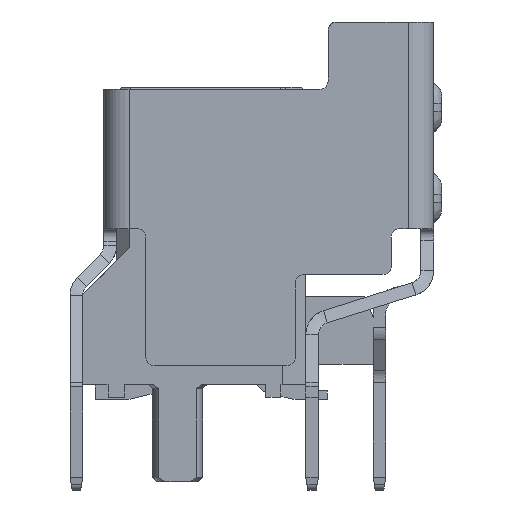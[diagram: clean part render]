
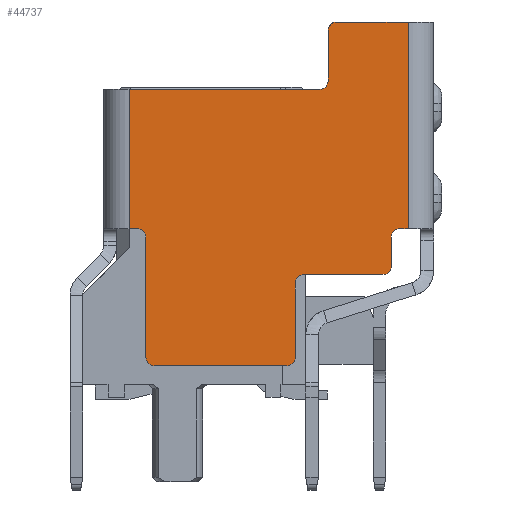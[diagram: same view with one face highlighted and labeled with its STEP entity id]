
A CAD part, left-side view. The second image highlights one B-rep face of the part: STEP entity #44737.
In plain terms, the highlighted planar face has unit normal (-1, 0, 0).
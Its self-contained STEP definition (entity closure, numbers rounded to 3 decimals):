
#9690=DIRECTION('',(0.,1.,0.));
#9691=VECTOR('',#9690,4.52);
#9692=CARTESIAN_POINT('',(-21.,-2.975,3.625));
#9693=LINE('',#9692,#9691);
#10051=DIRECTION('',(0.,0.,-1.));
#10052=VECTOR('',#10051,3.3);
#10053=CARTESIAN_POINT('',(-21.,1.545,3.625));
#10054=LINE('',#10053,#10052);
#10059=CARTESIAN_POINT('',(-21.,-2.975,3.825));
#10060=DIRECTION('',(-1.,0.,0.));
#10061=DIRECTION('',(0.,0.,-1.));
#10062=AXIS2_PLACEMENT_3D('',#10059,#10060,#10061);
#10064=CARTESIAN_POINT('',(-21.,-3.375,5.025));
#10065=DIRECTION('',(1.,0.,0.));
#10066=DIRECTION('',(0.,1.,0.));
#10067=AXIS2_PLACEMENT_3D('',#10064,#10065,#10066);
#10069=DIRECTION('',(0.,1.,0.));
#10070=VECTOR('',#10069,0.2);
#10071=CARTESIAN_POINT('',(-21.,-5.075,0.325));
#10072=LINE('',#10071,#10070);
#10073=CARTESIAN_POINT('',(-21.,-4.875,0.125));
#10074=DIRECTION('',(-1.,0.,0.));
#10075=DIRECTION('',(0.,0.,1.));
#10076=AXIS2_PLACEMENT_3D('',#10073,#10074,#10075);
#10078=DIRECTION('',(0.,0.,-1.));
#10079=VECTOR('',#10078,0.69);
#10080=CARTESIAN_POINT('',(-21.,-4.675,0.125));
#10081=LINE('',#10080,#10079);
#10082=CARTESIAN_POINT('',(-21.,-4.475,-0.565));
#10083=DIRECTION('',(1.,0.,0.));
#10084=DIRECTION('',(0.,-1.,0.));
#10085=AXIS2_PLACEMENT_3D('',#10082,#10083,#10084);
#10087=DIRECTION('',(0.,1.,0.));
#10088=VECTOR('',#10087,1.88);
#10089=CARTESIAN_POINT('',(-21.,-4.475,-0.765));
#10090=LINE('',#10089,#10088);
#10091=CARTESIAN_POINT('',(-21.,-2.595,-0.965));
#10092=DIRECTION('',(-1.,0.,0.));
#10093=DIRECTION('',(0.,0.,1.));
#10094=AXIS2_PLACEMENT_3D('',#10091,#10092,#10093);
#10096=DIRECTION('',(0.,0.,-1.));
#10097=VECTOR('',#10096,1.76);
#10098=CARTESIAN_POINT('',(-21.,-2.395,-0.965));
#10099=LINE('',#10098,#10097);
#10100=CARTESIAN_POINT('',(-21.,-2.195,-2.725));
#10101=DIRECTION('',(1.,0.,0.));
#10102=DIRECTION('',(0.,-1.,0.));
#10103=AXIS2_PLACEMENT_3D('',#10100,#10101,#10102);
#10105=DIRECTION('',(0.,1.,0.));
#10106=VECTOR('',#10105,3.14);
#10107=CARTESIAN_POINT('',(-21.,-2.195,-2.925));
#10108=LINE('',#10107,#10106);
#10109=CARTESIAN_POINT('',(-21.,0.945,-2.725));
#10110=DIRECTION('',(1.,0.,0.));
#10111=DIRECTION('',(0.,0.,-1.));
#10112=AXIS2_PLACEMENT_3D('',#10109,#10110,#10111);
#10114=CARTESIAN_POINT('',(-21.,1.345,0.125));
#10115=DIRECTION('',(-1.,0.,0.));
#10116=DIRECTION('',(0.,-1.,0.));
#10117=AXIS2_PLACEMENT_3D('',#10114,#10115,#10116);
#10119=DIRECTION('',(0.,1.,0.));
#10120=VECTOR('',#10119,0.2);
#10121=CARTESIAN_POINT('',(-21.,1.345,0.325));
#10122=LINE('',#10121,#10120);
#10211=DIRECTION('',(0.,0.,-1.));
#10212=VECTOR('',#10211,2.85);
#10213=CARTESIAN_POINT('',(-21.,1.145,0.125));
#10214=LINE('',#10213,#10212);
#10337=DIRECTION('',(0.,1.,0.));
#10338=VECTOR('',#10337,1.7);
#10339=CARTESIAN_POINT('',(-21.,-5.075,5.225));
#10340=LINE('',#10339,#10338);
#10712=DIRECTION('',(0.,0.,1.));
#10713=VECTOR('',#10712,4.9);
#10714=CARTESIAN_POINT('',(-21.,-5.075,0.325));
#10715=LINE('',#10714,#10713);
#10732=DIRECTION('',(0.,0.,-1.));
#10733=VECTOR('',#10732,1.2);
#10734=CARTESIAN_POINT('',(-21.,-3.175,5.025));
#10735=LINE('',#10734,#10733);
#28228=CARTESIAN_POINT('',(-21.,-2.975,3.625));
#28229=VERTEX_POINT('',#28228);
#28230=CARTESIAN_POINT('',(-21.,1.545,3.625));
#28231=VERTEX_POINT('',#28230);
#28248=CARTESIAN_POINT('',(-21.,1.545,0.325));
#28249=VERTEX_POINT('',#28248);
#28250=CARTESIAN_POINT('',(-21.,1.345,0.325));
#28251=VERTEX_POINT('',#28250);
#28364=CARTESIAN_POINT('',(-21.,-5.075,5.225));
#28365=VERTEX_POINT('',#28364);
#28366=CARTESIAN_POINT('',(-21.,-3.375,5.225));
#28367=VERTEX_POINT('',#28366);
#28379=CARTESIAN_POINT('',(-21.,-3.175,5.025));
#28380=VERTEX_POINT('',#28379);
#28383=CARTESIAN_POINT('',(-21.,-3.175,3.825));
#28384=VERTEX_POINT('',#28383);
#28385=CARTESIAN_POINT('',(-21.,-5.075,0.325));
#28386=VERTEX_POINT('',#28385);
#28387=CARTESIAN_POINT('',(-21.,-4.875,0.325));
#28388=VERTEX_POINT('',#28387);
#28389=CARTESIAN_POINT('',(-21.,-4.675,0.125));
#28390=VERTEX_POINT('',#28389);
#28391=CARTESIAN_POINT('',(-21.,-4.675,-0.565));
#28392=VERTEX_POINT('',#28391);
#28393=CARTESIAN_POINT('',(-21.,-4.475,-0.765));
#28394=VERTEX_POINT('',#28393);
#28395=CARTESIAN_POINT('',(-21.,-2.595,-0.765));
#28396=VERTEX_POINT('',#28395);
#28397=CARTESIAN_POINT('',(-21.,-2.395,-0.965));
#28398=VERTEX_POINT('',#28397);
#28399=CARTESIAN_POINT('',(-21.,-2.395,-2.725));
#28400=VERTEX_POINT('',#28399);
#28401=CARTESIAN_POINT('',(-21.,-2.195,-2.925));
#28402=VERTEX_POINT('',#28401);
#28403=CARTESIAN_POINT('',(-21.,0.945,-2.925));
#28404=VERTEX_POINT('',#28403);
#28405=CARTESIAN_POINT('',(-21.,1.145,-2.725));
#28406=VERTEX_POINT('',#28405);
#28407=CARTESIAN_POINT('',(-21.,1.145,0.125));
#28408=VERTEX_POINT('',#28407);
#44693=CARTESIAN_POINT('',(-21.,-1.765,1.15));
#44694=DIRECTION('',(1.,0.,0.));
#44695=DIRECTION('',(0.,1.,0.));
#44696=AXIS2_PLACEMENT_3D('',#44693,#44694,#44695);
#44697=PLANE('',#44696);
#44698=ORIENTED_EDGE('',*,*,#44393,.F.);
#44700=ORIENTED_EDGE('',*,*,#44699,.T.);
#44702=ORIENTED_EDGE('',*,*,#44701,.F.);
#44704=ORIENTED_EDGE('',*,*,#44703,.T.);
#44706=ORIENTED_EDGE('',*,*,#44705,.F.);
#44708=ORIENTED_EDGE('',*,*,#44707,.F.);
#44710=ORIENTED_EDGE('',*,*,#44709,.T.);
#44712=ORIENTED_EDGE('',*,*,#44711,.T.);
#44714=ORIENTED_EDGE('',*,*,#44713,.T.);
#44716=ORIENTED_EDGE('',*,*,#44715,.T.);
#44718=ORIENTED_EDGE('',*,*,#44717,.T.);
#44720=ORIENTED_EDGE('',*,*,#44719,.T.);
#44722=ORIENTED_EDGE('',*,*,#44721,.T.);
#44724=ORIENTED_EDGE('',*,*,#44723,.T.);
#44726=ORIENTED_EDGE('',*,*,#44725,.T.);
#44728=ORIENTED_EDGE('',*,*,#44727,.T.);
#44730=ORIENTED_EDGE('',*,*,#44729,.F.);
#44732=ORIENTED_EDGE('',*,*,#44731,.T.);
#44733=ORIENTED_EDGE('',*,*,#44357,.T.);
#44734=ORIENTED_EDGE('',*,*,#44686,.F.);
#44735=EDGE_LOOP('',(#44698,#44700,#44702,#44704,#44706,#44708,#44710,#44712,
#44714,#44716,#44718,#44720,#44722,#44724,#44726,#44728,#44730,#44732,#44733,
#44734));
#44736=FACE_OUTER_BOUND('',#44735,.F.);
#10063=CIRCLE('',#10062,0.2);
#10068=CIRCLE('',#10067,0.2);
#10077=CIRCLE('',#10076,0.2);
#10086=CIRCLE('',#10085,0.2);
#10095=CIRCLE('',#10094,0.2);
#10104=CIRCLE('',#10103,0.2);
#10113=CIRCLE('',#10112,0.2);
#10118=CIRCLE('',#10117,0.2);
#44357=EDGE_CURVE('',#28251,#28249,#10122,.T.);
#44393=EDGE_CURVE('',#28229,#28231,#9693,.T.);
#44686=EDGE_CURVE('',#28231,#28249,#10054,.T.);
#44699=EDGE_CURVE('',#28229,#28384,#10063,.T.);
#44701=EDGE_CURVE('',#28380,#28384,#10735,.T.);
#44703=EDGE_CURVE('',#28380,#28367,#10068,.T.);
#44705=EDGE_CURVE('',#28365,#28367,#10340,.T.);
#44707=EDGE_CURVE('',#28386,#28365,#10715,.T.);
#44709=EDGE_CURVE('',#28386,#28388,#10072,.T.);
#44711=EDGE_CURVE('',#28388,#28390,#10077,.T.);
#44713=EDGE_CURVE('',#28390,#28392,#10081,.T.);
#44715=EDGE_CURVE('',#28392,#28394,#10086,.T.);
#44717=EDGE_CURVE('',#28394,#28396,#10090,.T.);
#44719=EDGE_CURVE('',#28396,#28398,#10095,.T.);
#44721=EDGE_CURVE('',#28398,#28400,#10099,.T.);
#44723=EDGE_CURVE('',#28400,#28402,#10104,.T.);
#44725=EDGE_CURVE('',#28402,#28404,#10108,.T.);
#44727=EDGE_CURVE('',#28404,#28406,#10113,.T.);
#44729=EDGE_CURVE('',#28408,#28406,#10214,.T.);
#44731=EDGE_CURVE('',#28408,#28251,#10118,.T.);
#44737=ADVANCED_FACE('',(#44736),#44697,.F.);
